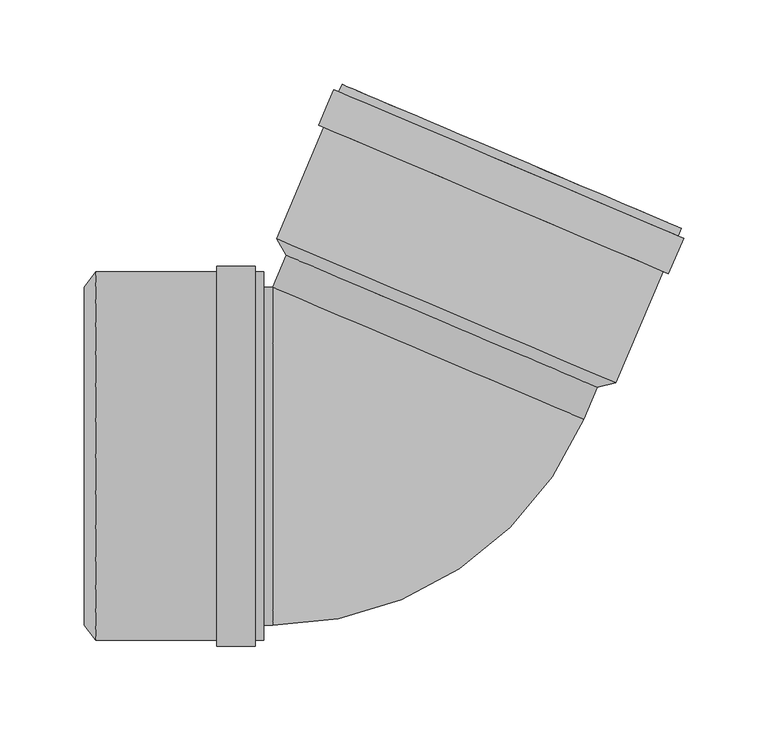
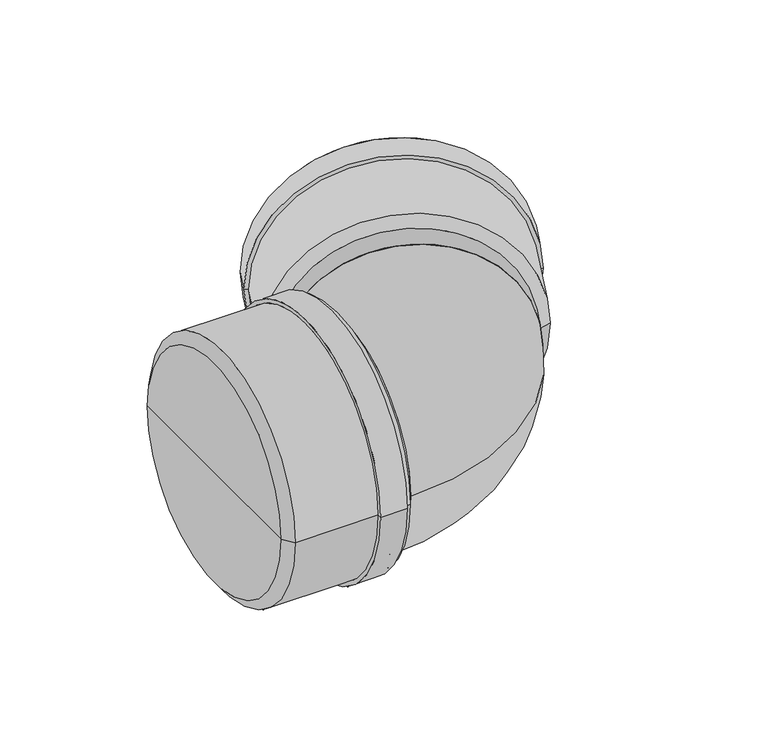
"""IFC4 building model written with IfcOpenShell, lengths in millimetres: pipe fitting geometry, pf_KGB : pf_KGB."""

from ifc_helpers import new_model, si_unit, point, frame, origin, origin_2d, place, context, project, spatial, polyline, circle_curve, ellipse_curve, trimmed, segment, composite_curve, outline, extrude, source, transform, mapped, element, save
from ifc_brep_helpers import plane_surface, cylinder_surface, revolved_surface, advanced_brep


def pipe_fitting_3bbf1025(model_context):
    return source(origin(), model_context, "Body", "SolidModel", [
        advanced_brep(
        [(125.9268742, 40.7346579, 0.0), (-58.1740965, 118.8808836, 0.0), (-63.9327921, 128.6039194, 0.0), (136.9213669, 43.3463872, 0.0), (33.8763888, 79.8077708, 0.0), (175.720968, 134.7525191, 0.0), (-25.1331911, 220.0100514, 0.0), (-16.7565969, 216.4543981, 0.0), (167.3443738, 138.3081724, 0.0), (-27.0087005, 215.5916281, 0.0), (173.8454586, 130.3340958, 0.0), (-30.138417, 216.9201139, 0.0), (176.9751751, 129.00561, 0.0), (-39.0470867, 195.9326033, 0.0), (168.0665053, 108.0180993, 0.0), (-35.9173702, 194.6041174, 0.0), (164.9367888, 109.3465852, 0.0), (128.5447727, 46.9020405, 0.0), (-55.5561979, 125.0482662, 0.0), (36.4942874, 85.9751533, 0.0)],
        [
            (0, 1, circle_curve(frame((33.8763888, 79.8077708, 0.0), z_axis=(0.3907311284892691, 0.9205048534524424, 0.0), x_axis=(-0.9205048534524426, 0.3907311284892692, 0.0)), 100.0)),
            (1, 2),
            (2, 3, circle_curve(frame((36.4942874, 85.9751533, 0.0), z_axis=(-0.3907311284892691, -0.9205048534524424, 0.0), x_axis=(-0.9205048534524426, 0.3907311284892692, 0.0)), 109.1)),
            (3, 0),
            (1, 0, circle_curve(frame((33.8763888, 79.8077708, 0.0), z_axis=(0.3907311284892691, 0.9205048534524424, 0.0), x_axis=(-0.9205048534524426, 0.3907311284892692, 0.0)), 100.0)),
            (3, 2, circle_curve(frame((36.4942874, 85.9751533, 0.0), z_axis=(-0.3907311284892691, -0.9205048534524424, 0.0), x_axis=(-0.9205048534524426, 0.3907311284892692, 0.0)), 109.1)),
            (4, 1),
            (0, 4),
            (5, 6, circle_curve(frame((75.2938885, 177.3812853, 0.0), z_axis=(0.3907311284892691, 0.9205048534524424, 0.0), x_axis=(-0.9205048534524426, 0.3907311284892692, 0.0)), 109.1)),
            (6, 7),
            (7, 8, circle_curve(frame((75.2938885, 177.3812853, 0.0), z_axis=(-0.3907311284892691, -0.9205048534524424, 0.0), x_axis=(-0.9205048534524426, 0.3907311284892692, 0.0)), 100.0)),
            (8, 5),
            (9, 10, circle_curve(frame((73.418379, 172.962862, 0.0), z_axis=(0.3907311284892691, 0.9205048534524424, 0.0), x_axis=(-0.9205048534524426, 0.3907311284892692, 0.0)), 109.1)),
            (10, 5),
            (5, 6, circle_curve(frame((75.2938885, 177.3812853, 0.0), z_axis=(-0.3907311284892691, -0.9205048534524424, 0.0), x_axis=(-0.9205048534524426, 0.3907311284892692, 0.0)), 109.1)),
            (6, 9),
            (11, 12, circle_curve(frame((73.418379, 172.962862, 0.0), z_axis=(0.3907311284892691, 0.9205048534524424, 0.0), x_axis=(-0.9205048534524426, 0.3907311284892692, 0.0)), 112.5)),
            (12, 10),
            (9, 11),
            (13, 14, circle_curve(frame((64.5097093, 151.9753513, 0.0), z_axis=(0.3907311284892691, 0.9205048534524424, 0.0), x_axis=(-0.9205048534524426, 0.3907311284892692, 0.0)), 112.5)),
            (14, 12),
            (11, 13),
            (15, 16, circle_curve(frame((64.5097093, 151.9753513, 0.0), z_axis=(0.3907311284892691, 0.9205048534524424, 0.0), x_axis=(-0.9205048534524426, 0.3907311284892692, 0.0)), 109.1)),
            (16, 14),
            (13, 15),
            (8, 7, circle_curve(frame((75.2938885, 177.3812853, 0.0), z_axis=(-0.3907311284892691, -0.9205048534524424, 0.0), x_axis=(-0.9205048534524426, 0.3907311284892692, 0.0)), 100.0)),
            (10, 9, circle_curve(frame((73.418379, 172.962862, 0.0), z_axis=(0.3907311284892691, 0.9205048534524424, 0.0), x_axis=(-0.9205048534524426, 0.3907311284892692, 0.0)), 109.1)),
            (12, 11, circle_curve(frame((73.418379, 172.962862, 0.0), z_axis=(0.3907311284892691, 0.9205048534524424, 0.0), x_axis=(-0.9205048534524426, 0.3907311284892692, 0.0)), 112.5)),
            (14, 13, circle_curve(frame((64.5097093, 151.9753513, 0.0), z_axis=(0.3907311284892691, 0.9205048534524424, 0.0), x_axis=(-0.9205048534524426, 0.3907311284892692, 0.0)), 112.5)),
            (16, 15, circle_curve(frame((64.5097093, 151.9753513, 0.0), z_axis=(0.3907311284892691, 0.9205048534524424, 0.0), x_axis=(-0.9205048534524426, 0.3907311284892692, 0.0)), 109.1)),
            (2, 15),
            (16, 3),
            (17, 18, circle_curve(frame((36.4942874, 85.9751533, 0.0), z_axis=(0.3907311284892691, 0.9205048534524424, 0.0), x_axis=(-0.9205048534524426, 0.3907311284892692, 0.0)), 100.0)),
            (18, 19),
            (19, 17),
            (18, 17, circle_curve(frame((36.4942874, 85.9751533, 0.0), z_axis=(0.3907311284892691, 0.9205048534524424, 0.0), x_axis=(-0.9205048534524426, 0.3907311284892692, 0.0)), 100.0)),
            (7, 18),
            (17, 8),
        ],
        [
            revolved_surface(polyline([(-63.9327921, 128.6039194, 0.0), (-58.1740965, 118.8808836, 0.0)]), (33.8763888, 79.8077708, 0.0), (-0.3907311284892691, -0.9205048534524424, 0.0)),
            plane_surface(frame((33.8763888, 79.8077708, 0.0), z_axis=(-0.3907311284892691, -0.9205048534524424, 0.0), x_axis=(-0.9205048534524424, 0.3907311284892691, 0.0))),
            plane_surface(frame((75.2938885, 177.3812853, 0.0), z_axis=(0.3907311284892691, 0.9205048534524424, 0.0), x_axis=(-0.9205048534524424, 0.3907311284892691, 0.0))),
            cylinder_surface(frame((33.8763888, 79.8077708, 0.0), z_axis=(-0.3907311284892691, -0.9205048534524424, 0.0), x_axis=(-0.9205048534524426, 0.3907311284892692, 0.0)), 109.1),
            plane_surface(frame((73.418379, 172.962862, 0.0), z_axis=(0.3907311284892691, 0.9205048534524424, 0.0), x_axis=(-0.9205048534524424, 0.3907311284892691, 0.0))),
            cylinder_surface(frame((33.8763888, 79.8077708, 0.0), z_axis=(-0.3907311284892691, -0.9205048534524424, 0.0), x_axis=(-0.9205048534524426, 0.3907311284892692, 0.0)), 112.5),
            plane_surface(frame((64.5097093, 151.9753513, 0.0), z_axis=(-0.3907311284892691, -0.9205048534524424, 0.0), x_axis=(-0.9205048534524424, 0.3907311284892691, 0.0))),
            plane_surface(frame((36.4942874, 85.9751533, 0.0), z_axis=(0.3907311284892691, 0.9205048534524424, 0.0), x_axis=(-0.9205048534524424, 0.3907311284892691, 0.0))),
            revolved_surface(polyline([(-55.55619798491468, 125.04826616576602, 0.0), (-16.75659690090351, 216.45439817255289, 0.0)]), (33.8763888, 79.8077708, 0.0), (-0.3907311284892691, -0.9205048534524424, 0.0)),
        ],
        [
            (0, [[1, 2, 3, 4]]),
            (0, [[5, -4, 6, -2]]),
            (1, [[7, -1, 8]]),
            (1, [[-8, -5, -7]]),
            (2, [[9, 10, 11, 12]]),
            (3, [[13, 14, 15, 16]]),
            (4, [[17, 18, -13, 19]]),
            (5, [[20, 21, -17, 22]]),
            (6, [[23, 24, -20, 25]]),
            (2, [[-15, -12, 26, -10]]),
            (3, [[27, -16, -9, -14]]),
            (4, [[28, -19, -27, -18]]),
            (5, [[29, -22, -28, -21]]),
            (6, [[30, -25, -29, -24]]),
            (3, [[-3, 31, -30, 32]]),
            (3, [[-6, -32, -23, -31]]),
            (7, [[33, 34, 35]]),
            (7, [[36, -35, -34]]),
            (8, [[-11, 37, -33, 38]]),
            (8, [[-26, -38, -36, -37]]),
        ],
    ),
        advanced_brep(
        [(-177.7, -100.0, 0.0), (-177.7, 100.0, 0.0), (-171.0, 109.1, 0.0), (-171.0, -109.1, 0.0), (-177.7, 0.0, 0.0), (-71.7, -109.1, 0.0), (-71.7, 109.1, 0.0), (-71.7, 100.0, 0.0), (-71.7, -100.0, 0.0), (-76.5, 109.1, 0.0), (-76.5, -109.1, 0.0), (-76.5, 112.5, 0.0), (-76.5, -112.5, 0.0), (-99.3, 112.5, 0.0), (-99.3, -112.5, 0.0), (-99.3, 109.1, 0.0), (-99.3, -109.1, 0.0), (-171.0, -100.0, 0.0), (-171.0, 100.0, 0.0), (-171.0, 0.0, 0.0)],
        [
            (0, 1, circle_curve(frame((-177.7, 0.0, 0.0), z_axis=(1.0, 0.0, 0.0), x_axis=(0.0, 1.0, 0.0)), 100.0)),
            (1, 2),
            (2, 3, circle_curve(frame((-171.0, 0.0, 0.0), z_axis=(-1.0, 0.0, 0.0), x_axis=(0.0, 1.0, 0.0)), 109.1)),
            (3, 0),
            (1, 0, circle_curve(frame((-177.7, 0.0, 0.0), z_axis=(1.0, 0.0, 0.0), x_axis=(0.0, 1.0, 0.0)), 100.0)),
            (3, 2, circle_curve(frame((-171.0, 0.0, 0.0), z_axis=(-1.0, 0.0, 0.0), x_axis=(0.0, 1.0, 0.0)), 109.1)),
            (4, 1),
            (0, 4),
            (5, 6, circle_curve(frame((-71.7, 0.0, 0.0), z_axis=(1.0, 0.0, 0.0), x_axis=(0.0, 1.0, 0.0)), 109.1)),
            (6, 7),
            (7, 8, circle_curve(frame((-71.7, 0.0, 0.0), z_axis=(-1.0, 0.0, 0.0), x_axis=(0.0, 1.0, 0.0)), 100.0)),
            (8, 5),
            (9, 10, circle_curve(frame((-76.5, 0.0, 0.0), z_axis=(1.0, 0.0, 0.0), x_axis=(0.0, 1.0, 0.0)), 109.1)),
            (10, 5),
            (5, 6, circle_curve(frame((-71.7, 0.0, 0.0), z_axis=(-1.0, 0.0, 0.0), x_axis=(0.0, 1.0, 0.0)), 109.1)),
            (6, 9),
            (11, 12, circle_curve(frame((-76.5, 0.0, 0.0), z_axis=(1.0, 0.0, 0.0), x_axis=(0.0, 1.0, 0.0)), 112.5)),
            (12, 10),
            (9, 11),
            (13, 14, circle_curve(frame((-99.3, 0.0, 0.0), z_axis=(1.0, 0.0, 0.0), x_axis=(0.0, 1.0, 0.0)), 112.5)),
            (14, 12),
            (11, 13),
            (15, 16, circle_curve(frame((-99.3, 0.0, 0.0), z_axis=(1.0, 0.0, 0.0), x_axis=(0.0, 1.0, 0.0)), 109.1)),
            (16, 14),
            (13, 15),
            (8, 7, circle_curve(frame((-71.7, 0.0, 0.0), z_axis=(-1.0, 0.0, 0.0), x_axis=(0.0, 1.0, 0.0)), 100.0)),
            (10, 9, circle_curve(frame((-76.5, 0.0, 0.0), z_axis=(1.0, 0.0, 0.0), x_axis=(0.0, 1.0, 0.0)), 109.1)),
            (12, 11, circle_curve(frame((-76.5, 0.0, 0.0), z_axis=(1.0, 0.0, 0.0), x_axis=(0.0, 1.0, 0.0)), 112.5)),
            (14, 13, circle_curve(frame((-99.3, 0.0, 0.0), z_axis=(1.0, 0.0, 0.0), x_axis=(0.0, 1.0, 0.0)), 112.5)),
            (16, 15, circle_curve(frame((-99.3, 0.0, 0.0), z_axis=(1.0, 0.0, 0.0), x_axis=(0.0, 1.0, 0.0)), 109.1)),
            (2, 15),
            (16, 3),
            (17, 18, circle_curve(frame((-171.0, 0.0, 0.0), z_axis=(1.0, 0.0, 0.0), x_axis=(0.0, 1.0, 0.0)), 100.0)),
            (18, 19),
            (19, 17),
            (18, 17, circle_curve(frame((-171.0, 0.0, 0.0), z_axis=(1.0, 0.0, 0.0), x_axis=(0.0, 1.0, 0.0)), 100.0)),
            (7, 18),
            (17, 8),
        ],
        [
            revolved_surface(polyline([(-171.0, 109.1, 0.0), (-177.7, 100.0, 0.0)]), (-177.7, 0.0, 0.0), (-1.0, 0.0, 0.0)),
            plane_surface(frame((-177.7, 0.0, 0.0), z_axis=(-1.0, 0.0, 0.0), x_axis=(0.0, 1.0, 0.0))),
            plane_surface(frame((-71.7, 0.0, 0.0), z_axis=(1.0, 0.0, 0.0), x_axis=(0.0, 1.0, 0.0))),
            cylinder_surface(frame((-177.7, 0.0, 0.0), z_axis=(-1.0, 0.0, 0.0), x_axis=(0.0, 1.0, 0.0)), 109.1),
            plane_surface(frame((-76.5, 0.0, 0.0), z_axis=(1.0, 0.0, 0.0), x_axis=(0.0, 1.0, 0.0))),
            cylinder_surface(frame((-177.7, 0.0, 0.0), z_axis=(-1.0, 0.0, 0.0), x_axis=(0.0, 1.0, 0.0)), 112.5),
            plane_surface(frame((-99.3, 0.0, 0.0), z_axis=(-1.0, 0.0, 0.0), x_axis=(0.0, 1.0, 0.0))),
            plane_surface(frame((-171.0, 0.0, 0.0), z_axis=(1.0, 0.0, 0.0), x_axis=(0.0, 1.0, 0.0))),
            revolved_surface(polyline([(-171.0, 100.0, 0.0), (-71.7, 100.0, 0.0)]), (-177.7, 0.0, 0.0), (-1.0, 0.0, 0.0)),
        ],
        [
            (0, [[1, 2, 3, 4]]),
            (0, [[5, -4, 6, -2]]),
            (1, [[7, -1, 8]]),
            (1, [[-8, -5, -7]]),
            (2, [[9, 10, 11, 12]]),
            (3, [[13, 14, 15, 16]]),
            (4, [[17, 18, -13, 19]]),
            (5, [[20, 21, -17, 22]]),
            (6, [[23, 24, -20, 25]]),
            (2, [[-15, -12, 26, -10]]),
            (3, [[27, -16, -9, -14]]),
            (4, [[28, -19, -27, -18]]),
            (5, [[29, -22, -28, -21]]),
            (6, [[30, -25, -29, -24]]),
            (3, [[-3, 31, -30, 32]]),
            (3, [[-6, -32, -23, -31]]),
            (7, [[33, 34, 35]]),
            (7, [[36, -35, -34]]),
            (8, [[-11, 37, -33, 38]]),
            (8, [[-26, -38, -36, -37]]),
        ],
    ),
        extrude(outline(composite_curve([segment(trimmed(circle_curve(origin_2d(), 100.0), [point((0.0, -99.9999999))], [point((0.0, 100.0000001))], False, "CARTESIAN"), True, "CONTINUOUS"), segment(trimmed(circle_curve(origin_2d(), 100.0), [point((0.0, 100.0000001))], [point((0.0, -99.9999999))], False, "CARTESIAN"), True, "CONTINUOUS")], self_intersect=False)), frame((25.8619292, 60.9268872, 0.0), z_axis=(0.3907311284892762, 0.9205048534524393, 0.0), x_axis=(0.0, 0.0, 1.0)), (0.0, 0.0, 1.0), 20.5114439),
        extrude(outline(composite_curve([segment(trimmed(circle_curve(origin_2d(), 100.0), [point((-100.0, 0.0))], [point((100.0, 0.0))], False, "CARTESIAN"), True, "CONTINUOUS"), segment(trimmed(circle_curve(origin_2d(), 100.0), [point((100.0, 0.0))], [point((-100.0, 0.0))], False, "CARTESIAN"), True, "CONTINUOUS")], self_intersect=False)), frame((-171.0, 0.0, 0.0), z_axis=(1.0, 0.0, 0.0), x_axis=(0.0, 1.0, 0.0)), (0.0, 0.0, 1.0), 104.8114439),
        advanced_brep(
        [(-66.1885561, -100.0, 0.0), (-66.1885561, 100.0, 0.0), (117.9124146, 21.8537743, 0.0)],
        [
            (0, 1, circle_curve(frame((-66.1885561, 0.0, 0.0), z_axis=(-1.0, 0.0, 0.0), x_axis=(0.0, 1.0, 0.0)), 100.0)),
            (1, 0, circle_curve(frame((-66.1885561, 0.0, 0.0), z_axis=(-1.0, 0.0, 0.0), x_axis=(0.0, 1.0, 0.0)), 100.0)),
            (2, 1, circle_curve(frame((25.8619292, 60.9268872, 0.0), z_axis=(0.39073112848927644, 0.9205048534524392, 0.0), x_axis=(-0.9205048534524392, 0.39073112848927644, 0.0)), 100.0)),
            (1, 2, circle_curve(frame((25.8619292, 60.9268872, 0.0), z_axis=(0.39073112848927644, 0.9205048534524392, 0.0), x_axis=(-0.9205048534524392, 0.39073112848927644, 0.0)), 100.0)),
            (2, 0, circle_curve(frame((-66.1885561, 100.0, 0.0), z_axis=(0.0, 0.0, -1.0), x_axis=(0.0, -1.0, 0.0)), 200.0)),
        ],
        [
            plane_surface(frame((-66.1885561, 100.0, -14.8), z_axis=(-1.0, 0.0, 0.0), x_axis=(0.0, -1.0, 0.0))),
            plane_surface(frame((-66.1885561, 100.0, -14.8), z_axis=(0.39073112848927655, 0.9205048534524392, 0.0), x_axis=(0.9205048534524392, -0.39073112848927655, 0.0))),
            revolved_surface(trimmed(ellipse_curve(frame((-66.1885561, 0.0, 0.0), z_axis=(1.0, 0.0, 0.0), x_axis=(0.0, 1.0, 0.0)), 100.0, 100.0), [point((-66.1885561, -100.0, 0.0))], [point((-66.1885561, 100.0, 0.0))], True, "CARTESIAN"), (-66.1885561, 100.0, -14.8), (0.0, 0.0, -1.0)),
            revolved_surface(trimmed(ellipse_curve(frame((-66.1885561, 0.0, 0.0), z_axis=(1.0, 0.0, 0.0), x_axis=(0.0, 1.0, 0.0)), 100.0, 100.0), [point((-66.1885561, 100.0, 0.0))], [point((-66.1885561, -100.0, 0.0))], True, "CARTESIAN"), (-66.1885561, 100.0, -14.8), (0.0, 0.0, -1.0)),
        ],
        [
            (0, [[1, 2]]),
            (1, [[3, 4]]),
            (2, [[5, -2, -3]]),
            (3, [[-1, -5, -4]]),
        ],
    ),
    ])


if __name__ == "__main__":
    model = new_model("IFC4")
    model_context = context("Model", 3, world=origin())
    ifc_project = project(units=[si_unit("LENGTHUNIT", "METRE", prefix="MILLI")], contexts=[model_context])
    site = spatial("IfcSite", under=ifc_project)
    building = spatial("IfcBuilding", under=site)
    placement = place(None, origin())
    pipe_fitting_shape = pipe_fitting_3bbf1025(model_context)
    element("IfcPipeFitting", 1, ObjectType="pf_KGB : pf_KGB", at=placement, inside=building, context=model_context, shape_type="MappedRepresentation", body=[
        mapped(pipe_fitting_shape, transform((0.0, 0.0, 0.0), x_axis=(1.0, 0.0, 0.0), y_axis=(0.0, 1.0, 0.0), z_axis=(0.0, 0.0, 1.0))),
    ])
    save(model, "model.ifc")
